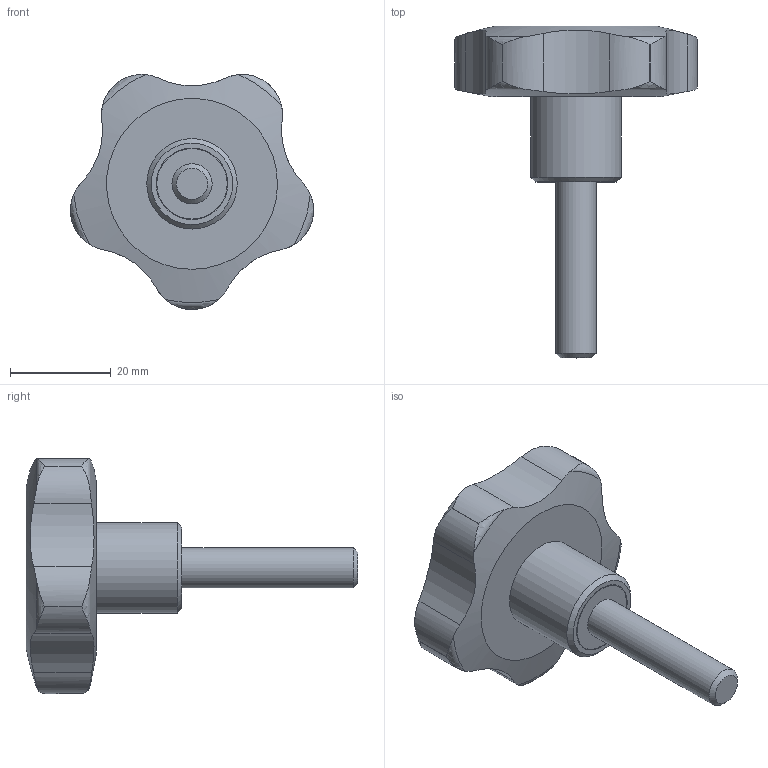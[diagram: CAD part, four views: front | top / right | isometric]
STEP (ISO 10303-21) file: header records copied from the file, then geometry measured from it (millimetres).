
FILE_DESCRIPTION( ( 'STEP AP203' ), '1' );
FILE_NAME( 'C:/Temp/Ganter_Step_05_03_2020/data/2_2/gn_5337_4/gn_5337_4_s/Star knob GN 5337.4-50-M8-35.stp', '2020-03-05T12:09:48', ( 'License CC BY-ND 4.0' ), ( 'CADENAS' ), ' ', 'PARTsolutions', ' ' );
FILE_SCHEMA( ( 'CONFIG_CONTROL_DESIGN' ) );
Length unit declared in the file: millimetre
Products named in the file (1): _Star knob GN 5337.4-50-M8-35
Bounding box: 48.33 x 66 x 46.75 mm (x, y, z)
Volume: 26294.6 mm3; surface area: 6685.9 mm2
Topology: 1 solids, 1 shells, 44 faces, 115 edges, 76 vertices
Faces by surface type: cylinder 24, torus 10, plane 5, cone 3, bspline 1, sphere 1
Full cylindrical faces by diameter (mm): 8 x1, 14 x1, 14.2 x1, 18 x1
Entity records: 1975 total; most frequent: CARTESIAN_POINT 974, ORIENTED_EDGE 204, DIRECTION 172, EDGE_CURVE 102, AXIS2_PLACEMENT_3D 76, VERTEX_POINT 74, EDGE_LOOP 56, B_SPLINE_CURVE_WITH_KNOTS 50
